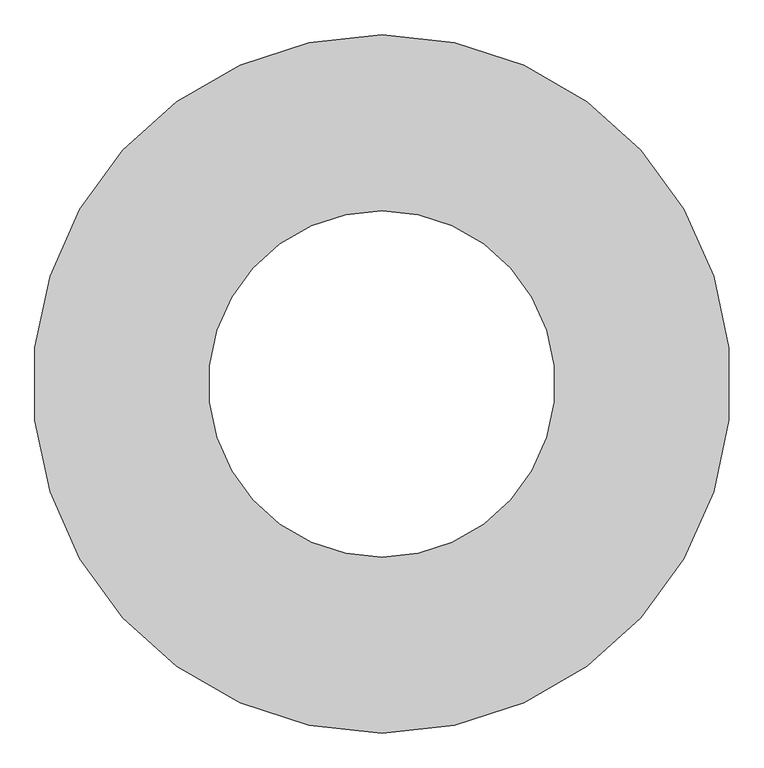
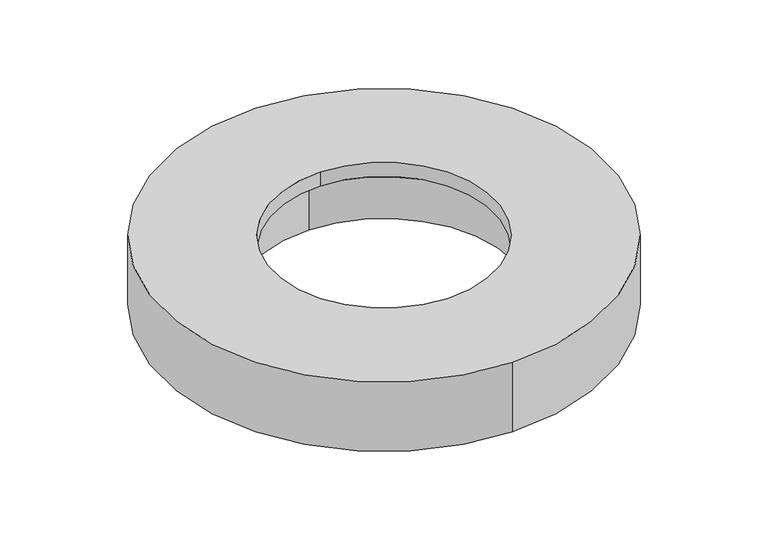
"""IFC4 building model written with IfcOpenShell, lengths in millimetres: valve geometry, Pipelife - Studnia PRO - Stożek żelbetowy do studni 800_1000 : Stożek beton do studni 800/1000."""

from ifc_helpers import new_model, si_unit, frame, origin, place, context, project, spatial, polyline, circle_curve, source, transform, mapped, element, save
from ifc_brep_helpers import plane_surface, cylinder_surface, revolved_surface, advanced_brep


def valve_c357f794(model_context):
    return source(origin(), model_context, "Body", "AdvancedBrep", [
        advanced_brep(
        [(0.0, 605.0, 200.0), (0.0, -605.0, 200.0), (0.0, -300.0, 200.0), (0.0, 300.0, 200.0), (0.0, 605.0, 0.0), (0.0, -605.0, 0.0), (0.0, 355.0, 0.0), (0.0, -355.0, 0.0), (0.0, -300.0, 160.0), (-300.0, 0.0, 160.0), (0.0, 300.0, 160.0), (300.0, 0.0, 160.0), (0.0, -355.0, 120.0), (0.0, 355.0, 120.0), (-355.0, 0.0, 120.0), (355.0, 0.0, 120.0)],
        [
            (0, 1, circle_curve(frame((0.0, 0.0, 200.0), z_axis=(0.0, 0.0, 1.0), x_axis=(0.0, -1.0, 0.0)), 605.0)),
            (1, 0, circle_curve(frame((0.0, 0.0, 200.0), z_axis=(0.0, 0.0, 1.0), x_axis=(0.0, -1.0, 0.0)), 605.0)),
            (2, 3, circle_curve(frame((0.0, 0.0, 200.0), z_axis=(0.0, 0.0, -1.0), x_axis=(0.0, -1.0, 0.0)), 300.0)),
            (3, 2, circle_curve(frame((0.0, 0.0, 200.0), z_axis=(0.0, 0.0, -1.0), x_axis=(0.0, -1.0, 0.0)), 300.0)),
            (4, 5, circle_curve(frame((0.0, 0.0, 0.0), z_axis=(0.0, 0.0, -1.0), x_axis=(0.0, -1.0, 0.0)), 605.0)),
            (5, 4, circle_curve(frame((0.0, 0.0, 0.0), z_axis=(0.0, 0.0, -1.0), x_axis=(0.0, -1.0, 0.0)), 605.0)),
            (6, 7, circle_curve(frame((0.0, 0.0, 0.0), z_axis=(0.0, 0.0, 1.0), x_axis=(0.0, -1.0, 0.0)), 355.0)),
            (7, 6, circle_curve(frame((0.0, 0.0, 0.0), z_axis=(0.0, 0.0, 1.0), x_axis=(0.0, -1.0, 0.0)), 355.0)),
            (0, 4),
            (5, 1),
            (2, 8),
            (8, 9, circle_curve(frame((0.0, 0.0, 160.0), z_axis=(0.0, 0.0, -1.0), x_axis=(0.0, -1.0, 0.0)), 300.0)),
            (9, 10, circle_curve(frame((0.0, 0.0, 160.0), z_axis=(0.0, 0.0, -1.0), x_axis=(0.0, -1.0, 0.0)), 300.0)),
            (10, 3),
            (10, 11, circle_curve(frame((0.0, 0.0, 160.0), z_axis=(0.0, 0.0, -1.0), x_axis=(0.0, -1.0, 0.0)), 300.0)),
            (11, 8, circle_curve(frame((0.0, 0.0, 160.0), z_axis=(0.0, 0.0, -1.0), x_axis=(0.0, -1.0, 0.0)), 300.0)),
            (12, 7),
            (6, 13),
            (13, 14, circle_curve(frame((0.0, 0.0, 120.0), z_axis=(0.0, 0.0, 1.0), x_axis=(0.0, -1.0, 0.0)), 355.0)),
            (14, 12, circle_curve(frame((0.0, 0.0, 120.0), z_axis=(0.0, 0.0, 1.0), x_axis=(0.0, -1.0, 0.0)), 355.0)),
            (12, 15, circle_curve(frame((0.0, 0.0, 120.0), z_axis=(0.0, 0.0, 1.0), x_axis=(0.0, -1.0, 0.0)), 355.0)),
            (15, 13, circle_curve(frame((0.0, 0.0, 120.0), z_axis=(0.0, 0.0, 1.0), x_axis=(0.0, -1.0, 0.0)), 355.0)),
            (15, 11),
            (9, 14),
        ],
        [
            plane_surface(frame((0.0, 0.0, 200.0), z_axis=(0.0, 0.0, 1.0), x_axis=(0.0, -1.0, 0.0))),
            plane_surface(frame((0.0, 0.0, 0.0), z_axis=(0.0, 0.0, -1.0), x_axis=(0.0, -1.0, 0.0))),
            cylinder_surface(frame((0.0, 0.0, 200.0), z_axis=(0.0, 0.0, 1.0), x_axis=(0.0, -1.0, 0.0)), 605.0),
            revolved_surface(polyline([(0.0, -300.0, 200.0), (0.0, -300.0, 160.0)]), (0.0, 0.0, 200.0), (0.0, 0.0, 1.0)),
            revolved_surface(polyline([(0.0, -355.0, 120.0), (0.0, -355.0, 0.0)]), (0.0, 0.0, 120.0), (0.0, 0.0, 1.0)),
            revolved_surface(polyline([(355.0, 0.0, 120.0), (300.00000000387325, 0.0, 160.0)]), (0.0, 0.0, 378.1818182), (0.0, 0.0, -1.0)),
        ],
        [
            (0, [[1, 2], [3, 4]]),
            (1, [[5, 6], [7, 8]]),
            (2, [[-1, 9, -6, 10]]),
            (2, [[-2, -10, -5, -9]]),
            (3, [[11, 12, 13, 14, -3]]),
            (3, [[-11, -4, -14, 15, 16]]),
            (4, [[17, -7, 18, 19, 20]]),
            (4, [[-17, 21, 22, -18, -8]]),
            (5, [[23, -15, -13, 24, -19, -22]]),
            (5, [[-23, -21, -20, -24, -12, -16]]),
        ],
    ),
    ])


if __name__ == "__main__":
    model = new_model("IFC4")
    model_context = context("Model", 3, world=origin())
    ifc_project = project(units=[si_unit("LENGTHUNIT", "METRE", prefix="MILLI")], contexts=[model_context])
    site = spatial("IfcSite", under=ifc_project)
    building = spatial("IfcBuilding", under=site)
    placement = place(None, origin())
    valve_shape = valve_c357f794(model_context)
    element("IfcValve", 1, ObjectType="Pipelife - Studnia PRO - Stożek żelbetowy do studni 800_1000 : Stożek beton do studni 800/1000", at=placement, inside=building, context=model_context, shape_type="MappedRepresentation", body=[
        mapped(valve_shape, transform((0.0, 0.0, 0.0), x_axis=(1.0, 0.0, 0.0), y_axis=(0.0, 1.0, 0.0), z_axis=(0.0, 0.0, 1.0))),
    ])
    save(model, "model.ifc")
